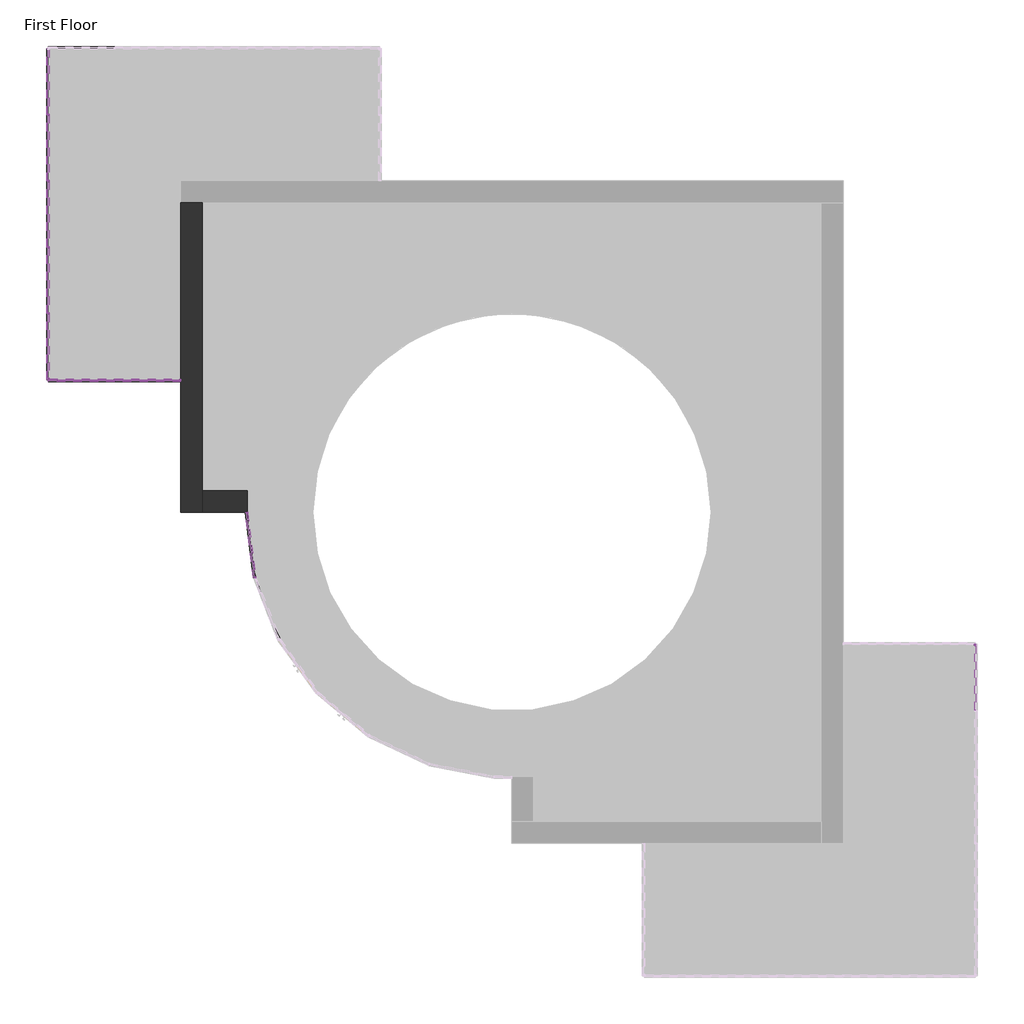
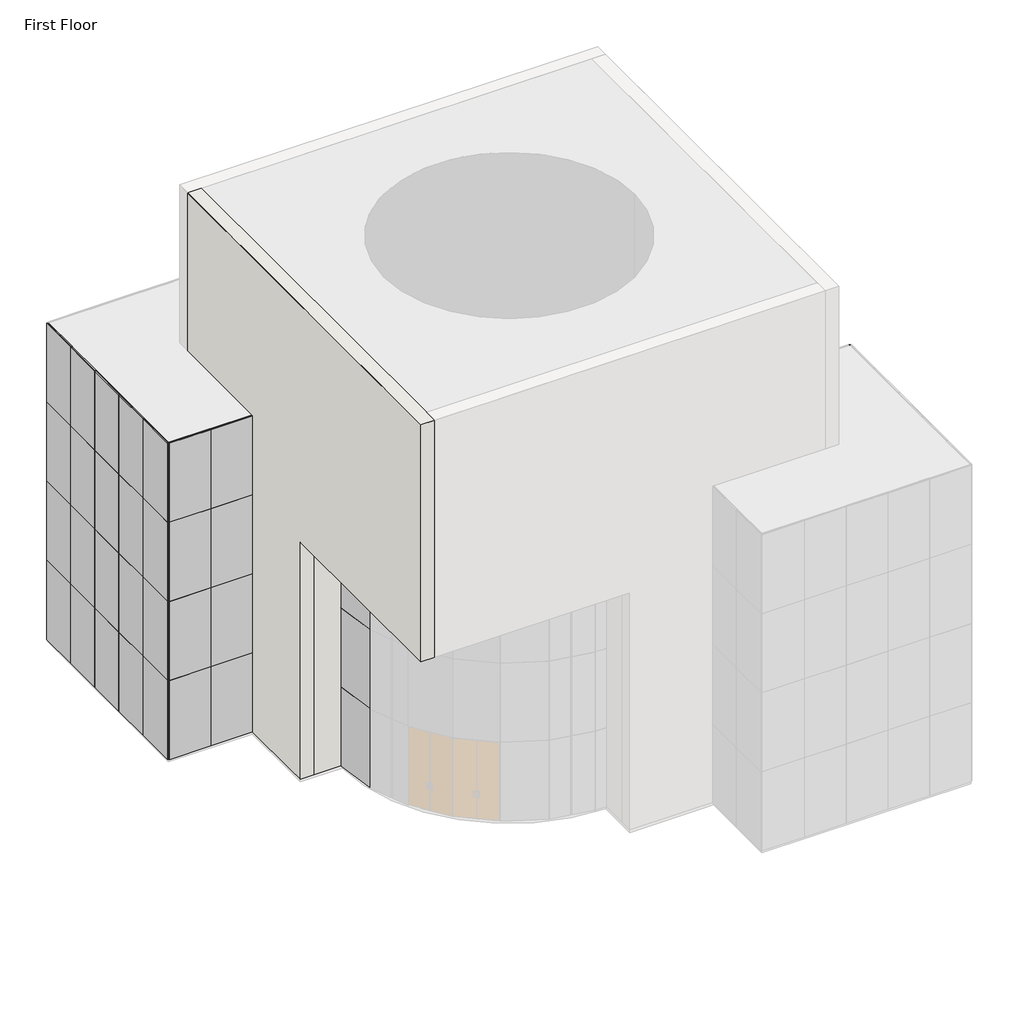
# One storey, part 3 of 4: 89 members, 32 plates, 2 walls.
"""IFC4 building model written with IfcOpenShell, lengths in millimetres."""

from ifc_helpers import new_model, si_unit, origin, origin_with_axes, place, context, project, spatial, polyline, outline, extrude, faceted_brep, transform, mapped, element, save
from components import member_8003fc1d, member_cbdb9076, member_e23d1186, member_113f7001, member_5d503216, member_7e523723, member_74941792, member_5e617a80, member_9fd3d903, member_6604d1e0, system_panel_glazed_9c75bc08

model = new_model("IFC4")

# Units and contexts
model_context = context("Model", 3, world=origin())
ifc_project = project(units=[si_unit("LENGTHUNIT", "METRE", prefix="MILLI")], contexts=[model_context])

# Site, building, storey
site = spatial("IfcSite", under=ifc_project)
building = spatial("IfcBuilding", under=site)
storey = spatial("IfcBuildingStorey", under=building, Name="First Floor", Elevation=0.0)

# Members
placement = place(None, origin())
member_shape = member_8003fc1d(model_context)
element("IfcMember", 1, ObjectType="Rectangular Mullion : 1\" Square", at=placement, inside=storey, context=model_context, shape_type="MappedRepresentation", body=[
    mapped(member_shape, transform((-8300.45977, 2058.6208328, 0.0), x_axis=(0.0, 0.0, -1.0), y_axis=(-0.9921567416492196, -0.1250000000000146, 0.0), z_axis=(-0.1250000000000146, 0.9921567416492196, 0.0))),
])
member_2_shape = member_cbdb9076(model_context)
element("IfcMember", 2, ObjectType="Rectangular Mullion : 1\" Square", at=placement, inside=storey, context=model_context, shape_type="MappedRepresentation", body=[
    mapped(member_2_shape, transform((-8113.13477, 571.7747398, 0.0), x_axis=(0.24803918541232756, -0.9687499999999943, 0.0), y_axis=(-0.9687499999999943, -0.24803918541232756, 0.0), z_axis=(0.0, 0.0, -1.0))),
])
element("IfcMember", 3, ObjectType="Rectangular Mullion : 1\" Square", at=placement, inside=storey, context=model_context, shape_type="MappedRepresentation", body=[
    mapped(member_2_shape, transform((-12875.63477, 11227.821614, 0.0), x_axis=(0.0, -1.0, 0.0), y_axis=(-1.0, 0.0, 0.0), z_axis=(0.0, 0.0, -1.0))),
])
element("IfcMember", 4, ObjectType="Rectangular Mullion : 1\" Square", at=placement, inside=storey, context=model_context, shape_type="MappedRepresentation", body=[
    mapped(member_2_shape, transform((-12875.63477, 9703.821614, 0.0), x_axis=(0.0, -1.0, 0.0), y_axis=(-1.0, 0.0, 0.0), z_axis=(0.0, 0.0, -1.0))),
])
element("IfcMember", 5, ObjectType="Rectangular Mullion : 1\" Square", at=placement, inside=storey, context=model_context, shape_type="MappedRepresentation", body=[
    mapped(member_2_shape, transform((-12875.63477, 8179.821614, 0.0), x_axis=(0.0, -1.0, 0.0), y_axis=(-1.0, 0.0, 0.0), z_axis=(0.0, 0.0, -1.0))),
])
element("IfcMember", 6, ObjectType="Rectangular Mullion : 1\" Square", at=placement, inside=storey, context=model_context, shape_type="MappedRepresentation", body=[
    mapped(member_2_shape, transform((-12875.63477, 6655.821614, 0.0), x_axis=(0.0, -1.0, 0.0), y_axis=(-1.0, 0.0, 0.0), z_axis=(0.0, 0.0, -1.0))),
])
element("IfcMember", 7, ObjectType="Rectangular Mullion : 1\" Square", at=placement, inside=storey, context=model_context, shape_type="MappedRepresentation", body=[
    mapped(member_2_shape, transform((-11351.63477, 5131.821614, 0.0), x_axis=(1.0, 0.0, 0.0), y_axis=(0.0, -1.0, 0.0), z_axis=(0.0, 0.0, -1.0))),
])
member_3_shape = member_e23d1186(model_context)
element("IfcMember", 8, ObjectType="Rectangular Mullion : 1\" Square", at=placement, inside=storey, context=model_context, shape_type="MappedRepresentation", body=[
    mapped(member_3_shape, transform((-8114.72227, 584.3751304, 3048.0), x_axis=(0.0, 0.0, 1.0), y_axis=(-0.9921567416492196, -0.12500000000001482, 0.0), z_axis=(0.12500000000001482, -0.9921567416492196, 0.0))),
])
element("IfcMember", 9, ObjectType="Rectangular Mullion : 1\" Square", at=placement, inside=storey, context=model_context, shape_type="MappedRepresentation", body=[
    mapped(member_3_shape, transform((-8114.72227, 584.3751304, 6096.0), x_axis=(0.0, 0.0, 1.0), y_axis=(-0.9921567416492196, -0.12500000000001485, 0.0), z_axis=(0.12500000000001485, -0.9921567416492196, 0.0))),
])
member_4_shape = member_113f7001(model_context)
element("IfcMember", 10, ObjectType="Rectangular Mullion : 1\" Square", at=placement, inside=storey, context=model_context, shape_type="MappedRepresentation", body=[
    mapped(member_4_shape, transform((-8108.4714888, 559.9618735, 0.0), x_axis=(0.0, 0.0, -1.0), y_axis=(-0.9301469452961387, -0.3671875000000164, 0.0), z_axis=(-0.3671875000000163, 0.9301469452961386, 0.0))),
])
member_5_shape = member_5d503216(model_context)
element("IfcMember", 11, ObjectType="Rectangular Mullion : 1\" Square", at=placement, inside=storey, context=model_context, shape_type="MappedRepresentation", body=[
    mapped(member_5_shape, transform((-8114.72227, 584.3751304, 9144.0), x_axis=(0.0, 0.0, 1.0), y_axis=(-0.9921567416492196, -0.12500000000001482, 0.0), z_axis=(0.12500000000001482, -0.9921567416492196, 0.0))),
])
element("IfcMember", 12, ObjectType="Rectangular Mullion : 1\" Square", at=placement, inside=storey, context=model_context, shape_type="MappedRepresentation", body=[
    mapped(member_2_shape, transform((-8113.13477, 571.7747398, 3048.0), x_axis=(0.2480391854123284, -0.9687499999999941, 0.0), y_axis=(-0.9687499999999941, -0.2480391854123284, 0.0), z_axis=(0.0, 0.0, -1.0))),
])
element("IfcMember", 13, ObjectType="Rectangular Mullion : 1\" Square", at=placement, inside=storey, context=model_context, shape_type="MappedRepresentation", body=[
    mapped(member_2_shape, transform((-12875.63477, 11227.821614, 3048.0), x_axis=(0.0, -1.0, 0.0), y_axis=(-1.0, 0.0, 0.0), z_axis=(0.0, 0.0, -1.0))),
])
element("IfcMember", 14, ObjectType="Rectangular Mullion : 1\" Square", at=placement, inside=storey, context=model_context, shape_type="MappedRepresentation", body=[
    mapped(member_2_shape, transform((-12875.63477, 11227.821614, 6096.0), x_axis=(0.0, -1.0, 0.0), y_axis=(-1.0, 0.0, 0.0), z_axis=(0.0, 0.0, -1.0))),
])
element("IfcMember", 15, ObjectType="Rectangular Mullion : 1\" Square", at=placement, inside=storey, context=model_context, shape_type="MappedRepresentation", body=[
    mapped(member_2_shape, transform((-12875.63477, 9703.821614, 3048.0), x_axis=(0.0, -1.0, 0.0), y_axis=(-1.0, 0.0, 0.0), z_axis=(0.0, 0.0, -1.0))),
])
element("IfcMember", 16, ObjectType="Rectangular Mullion : 1\" Square", at=placement, inside=storey, context=model_context, shape_type="MappedRepresentation", body=[
    mapped(member_2_shape, transform((-12875.63477, 9703.821614, 6096.0), x_axis=(0.0, -1.0, 0.0), y_axis=(-1.0, 0.0, 0.0), z_axis=(0.0, 0.0, -1.0))),
])
element("IfcMember", 17, ObjectType="Rectangular Mullion : 1\" Square", at=placement, inside=storey, context=model_context, shape_type="MappedRepresentation", body=[
    mapped(member_2_shape, transform((-12875.63477, 8179.821614, 3048.0), x_axis=(0.0, -1.0, 0.0), y_axis=(-1.0, 0.0, 0.0), z_axis=(0.0, 0.0, -1.0))),
])
element("IfcMember", 18, ObjectType="Rectangular Mullion : 1\" Square", at=placement, inside=storey, context=model_context, shape_type="MappedRepresentation", body=[
    mapped(member_2_shape, transform((-12875.63477, 8179.821614, 6096.0), x_axis=(0.0, -1.0, 0.0), y_axis=(-1.0, 0.0, 0.0), z_axis=(0.0, 0.0, -1.0))),
])
element("IfcMember", 19, ObjectType="Rectangular Mullion : 1\" Square", at=placement, inside=storey, context=model_context, shape_type="MappedRepresentation", body=[
    mapped(member_2_shape, transform((-12875.63477, 6655.821614, 3048.0), x_axis=(0.0, -1.0, 0.0), y_axis=(-1.0, 0.0, 0.0), z_axis=(0.0, 0.0, -1.0))),
])
element("IfcMember", 20, ObjectType="Rectangular Mullion : 1\" Square", at=placement, inside=storey, context=model_context, shape_type="MappedRepresentation", body=[
    mapped(member_2_shape, transform((-12875.63477, 6655.821614, 6096.0), x_axis=(0.0, -1.0, 0.0), y_axis=(-1.0, 0.0, 0.0), z_axis=(0.0, 0.0, -1.0))),
])
element("IfcMember", 21, ObjectType="Rectangular Mullion : 1\" Square", at=placement, inside=storey, context=model_context, shape_type="MappedRepresentation", body=[
    mapped(member_2_shape, transform((-11351.63477, 5131.821614, 3048.0), x_axis=(1.0, 0.0, 0.0), y_axis=(0.0, -1.0, 0.0), z_axis=(0.0, 0.0, -1.0))),
])
element("IfcMember", 22, ObjectType="Rectangular Mullion : 1\" Square", at=placement, inside=storey, context=model_context, shape_type="MappedRepresentation", body=[
    mapped(member_2_shape, transform((-11351.63477, 5131.821614, 6096.0), x_axis=(1.0, 0.0, 0.0), y_axis=(0.0, -1.0, 0.0), z_axis=(0.0, 0.0, -1.0))),
])
element("IfcMember", 23, ObjectType="Rectangular Mullion : 1\" Square", at=placement, inside=storey, context=model_context, shape_type="MappedRepresentation", body=[
    mapped(member_2_shape, transform((-8113.13477, 571.7747398, 6096.0), x_axis=(0.2480391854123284, -0.9687499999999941, 0.0), y_axis=(-0.9687499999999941, -0.2480391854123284, 0.0), z_axis=(0.0, 0.0, -1.0))),
])
element("IfcMember", 24, ObjectType="Rectangular Mullion : 1\" Square", at=placement, inside=storey, context=model_context, shape_type="MappedRepresentation", body=[
    mapped(member_2_shape, transform((-12875.63477, 11227.821614, 9144.0), x_axis=(0.0, -1.0, 0.0), y_axis=(-1.0, 0.0, 0.0), z_axis=(0.0, 0.0, -1.0))),
])
element("IfcMember", 25, ObjectType="Rectangular Mullion : 1\" Square", at=placement, inside=storey, context=model_context, shape_type="MappedRepresentation", body=[
    mapped(member_2_shape, transform((-12875.63477, 9703.821614, 9144.0), x_axis=(0.0, -1.0, 0.0), y_axis=(-1.0, 0.0, 0.0), z_axis=(0.0, 0.0, -1.0))),
])
element("IfcMember", 26, ObjectType="Rectangular Mullion : 1\" Square", at=placement, inside=storey, context=model_context, shape_type="MappedRepresentation", body=[
    mapped(member_2_shape, transform((-12875.63477, 8179.821614, 9144.0), x_axis=(0.0, -1.0, 0.0), y_axis=(-1.0, 0.0, 0.0), z_axis=(0.0, 0.0, -1.0))),
])
element("IfcMember", 27, ObjectType="Rectangular Mullion : 1\" Square", at=placement, inside=storey, context=model_context, shape_type="MappedRepresentation", body=[
    mapped(member_2_shape, transform((-12875.63477, 6655.821614, 9144.0), x_axis=(0.0, -1.0, 0.0), y_axis=(-1.0, 0.0, 0.0), z_axis=(0.0, 0.0, -1.0))),
])
element("IfcMember", 28, ObjectType="Rectangular Mullion : 1\" Square", at=placement, inside=storey, context=model_context, shape_type="MappedRepresentation", body=[
    mapped(member_2_shape, transform((-11351.63477, 5131.821614, 9144.0), x_axis=(1.0, 0.0, 0.0), y_axis=(0.0, -1.0, 0.0), z_axis=(0.0, 0.0, -1.0))),
])
member_6_shape = member_7e523723(model_context)
element("IfcMember", 29, ObjectType="Rectangular Mullion : 1\" Square", at=placement, inside=storey, context=model_context, shape_type="MappedRepresentation", body=[
    mapped(member_6_shape, transform((8460.36523, -964.178386, 0.0), x_axis=(0.0, 1.0, 0.0), y_axis=(1.0, 0.0, 0.0), z_axis=(0.0, 0.0, -1.0))),
])
element("IfcMember", 30, ObjectType="Rectangular Mullion : 1\" Square", at=placement, inside=storey, context=model_context, shape_type="MappedRepresentation", body=[
    mapped(member_6_shape, transform((-12875.63477, 5131.821614, 0.0), x_axis=(0.0, -1.0, 0.0), y_axis=(-1.0, 0.0, 0.0), z_axis=(0.0, 0.0, -1.0))),
])
element("IfcMember", 31, ObjectType="Rectangular Mullion : 1\" Square", at=placement, inside=storey, context=model_context, shape_type="MappedRepresentation", body=[
    mapped(member_6_shape, transform((-9827.63477, 5131.821614, 0.0), x_axis=(1.0, 0.0, 0.0), y_axis=(0.0, -1.0, 0.0), z_axis=(0.0, 0.0, -1.0))),
])
element("IfcMember", 32, ObjectType="Rectangular Mullion : 1\" Square", at=placement, inside=storey, context=model_context, shape_type="MappedRepresentation", body=[
    mapped(member_6_shape, transform((-8303.63477, 2083.821614, 9144.0), x_axis=(-0.1250000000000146, 0.9921567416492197, 0.0), y_axis=(-0.9921567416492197, -0.1250000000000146, 0.0), z_axis=(0.0, 0.0, 1.0))),
])
element("IfcMember", 33, ObjectType="Rectangular Mullion : 1\" Square", at=placement, inside=storey, context=model_context, shape_type="MappedRepresentation", body=[
    mapped(member_6_shape, transform((-12875.63477, 5131.821614, 12192.0), x_axis=(-1.0, 0.0, 0.0), y_axis=(0.0, -1.0, 0.0), z_axis=(0.0, 0.0, 1.0))),
])
element("IfcMember", 34, ObjectType="Rectangular Mullion : 1\" Square", at=placement, inside=storey, context=model_context, shape_type="MappedRepresentation", body=[
    mapped(member_6_shape, transform((8460.36523, -964.178386, 12192.0), x_axis=(1.0, 0.0, 0.0), y_axis=(0.0, 1.0, 0.0), z_axis=(0.0, 0.0, 1.0))),
])
element("IfcMember", 35, ObjectType="Rectangular Mullion : 1\" Square", at=placement, inside=storey, context=model_context, shape_type="MappedRepresentation", body=[
    mapped(member_6_shape, transform((-8303.63477, 2083.821614, 3048.0), x_axis=(-0.1250000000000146, 0.9921567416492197, 0.0), y_axis=(-0.9921567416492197, -0.1250000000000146, 0.0), z_axis=(0.0, 0.0, 1.0))),
])
element("IfcMember", 36, ObjectType="Rectangular Mullion : 1\" Square", at=placement, inside=storey, context=model_context, shape_type="MappedRepresentation", body=[
    mapped(member_6_shape, transform((-12875.63477, 5131.821614, 3048.0), x_axis=(-1.0, 0.0, 0.0), y_axis=(0.0, -1.0, 0.0), z_axis=(0.0, 0.0, 1.0))),
])
element("IfcMember", 37, ObjectType="Rectangular Mullion : 1\" Square", at=placement, inside=storey, context=model_context, shape_type="MappedRepresentation", body=[
    mapped(member_6_shape, transform((8460.36523, -964.178386, 3048.0), x_axis=(1.0, 0.0, 0.0), y_axis=(0.0, 1.0, 0.0), z_axis=(0.0, 0.0, 1.0))),
])
element("IfcMember", 38, ObjectType="Rectangular Mullion : 1\" Square", at=placement, inside=storey, context=model_context, shape_type="MappedRepresentation", body=[
    mapped(member_6_shape, transform((-8303.63477, 2083.821614, 6096.0), x_axis=(-0.12500000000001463, 0.9921567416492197, 0.0), y_axis=(-0.9921567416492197, -0.12500000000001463, 0.0), z_axis=(0.0, 0.0, 1.0))),
])
element("IfcMember", 39, ObjectType="Rectangular Mullion : 1\" Square", at=placement, inside=storey, context=model_context, shape_type="MappedRepresentation", body=[
    mapped(member_6_shape, transform((-12875.63477, 5131.821614, 6096.0), x_axis=(-1.0, 0.0, 0.0), y_axis=(0.0, -1.0, 0.0), z_axis=(0.0, 0.0, 1.0))),
])
element("IfcMember", 40, ObjectType="Rectangular Mullion : 1\" Square", at=placement, inside=storey, context=model_context, shape_type="MappedRepresentation", body=[
    mapped(member_6_shape, transform((-12875.63477, 5131.821614, 9144.0), x_axis=(-1.0, 0.0, 0.0), y_axis=(0.0, -1.0, 0.0), z_axis=(0.0, 0.0, 1.0))),
])
element("IfcMember", 41, ObjectType="Rectangular Mullion : 1\" Square", at=placement, inside=storey, context=model_context, shape_type="MappedRepresentation", body=[
    mapped(member_6_shape, transform((8460.36523, -964.178386, 6096.0), x_axis=(1.0, 0.0, 0.0), y_axis=(0.0, 1.0, 0.0), z_axis=(0.0, 0.0, 1.0))),
])
element("IfcMember", 42, ObjectType="Rectangular Mullion : 1\" Square", at=placement, inside=storey, context=model_context, shape_type="MappedRepresentation", body=[
    mapped(member_6_shape, transform((8460.36523, -964.178386, 9144.0), x_axis=(1.0, 0.0, 0.0), y_axis=(0.0, 1.0, 0.0), z_axis=(0.0, 0.0, 1.0))),
])
element("IfcMember", 43, ObjectType="Rectangular Mullion : 1\" Square", at=placement, inside=storey, context=model_context, shape_type="MappedRepresentation", body=[
    mapped(member_6_shape, transform((8460.36523, -964.178386, 3048.0), x_axis=(0.0, 1.0, 0.0), y_axis=(1.0, 0.0, 0.0), z_axis=(0.0, 0.0, -1.0))),
])
element("IfcMember", 44, ObjectType="Rectangular Mullion : 1\" Square", at=placement, inside=storey, context=model_context, shape_type="MappedRepresentation", body=[
    mapped(member_6_shape, transform((8460.36523, -964.178386, 6096.0), x_axis=(0.0, 1.0, 0.0), y_axis=(1.0, 0.0, 0.0), z_axis=(0.0, 0.0, -1.0))),
])
element("IfcMember", 45, ObjectType="Rectangular Mullion : 1\" Square", at=placement, inside=storey, context=model_context, shape_type="MappedRepresentation", body=[
    mapped(member_6_shape, transform((-12875.63477, 5131.821614, 3048.0), x_axis=(0.0, -1.0, 0.0), y_axis=(-1.0, 0.0, 0.0), z_axis=(0.0, 0.0, -1.0))),
])
element("IfcMember", 46, ObjectType="Rectangular Mullion : 1\" Square", at=placement, inside=storey, context=model_context, shape_type="MappedRepresentation", body=[
    mapped(member_6_shape, transform((-12875.63477, 5131.821614, 6096.0), x_axis=(0.0, -1.0, 0.0), y_axis=(-1.0, 0.0, 0.0), z_axis=(0.0, 0.0, -1.0))),
])
element("IfcMember", 47, ObjectType="Rectangular Mullion : 1\" Square", at=placement, inside=storey, context=model_context, shape_type="MappedRepresentation", body=[
    mapped(member_6_shape, transform((-9827.63477, 5131.821614, 3048.0), x_axis=(1.0, 0.0, 0.0), y_axis=(0.0, -1.0, 0.0), z_axis=(0.0, 0.0, -1.0))),
])
element("IfcMember", 48, ObjectType="Rectangular Mullion : 1\" Square", at=placement, inside=storey, context=model_context, shape_type="MappedRepresentation", body=[
    mapped(member_6_shape, transform((-9827.63477, 5131.821614, 6096.0), x_axis=(1.0, 0.0, 0.0), y_axis=(0.0, -1.0, 0.0), z_axis=(0.0, 0.0, -1.0))),
])
element("IfcMember", 49, ObjectType="Rectangular Mullion : 1\" Square", at=placement, inside=storey, context=model_context, shape_type="MappedRepresentation", body=[
    mapped(member_6_shape, transform((8460.36523, -964.178386, 9144.0), x_axis=(0.0, 1.0, 0.0), y_axis=(1.0, 0.0, 0.0), z_axis=(0.0, 0.0, -1.0))),
])
element("IfcMember", 50, ObjectType="Rectangular Mullion : 1\" Square", at=placement, inside=storey, context=model_context, shape_type="MappedRepresentation", body=[
    mapped(member_6_shape, transform((-12875.63477, 5131.821614, 9144.0), x_axis=(0.0, -1.0, 0.0), y_axis=(-1.0, 0.0, 0.0), z_axis=(0.0, 0.0, -1.0))),
])
element("IfcMember", 51, ObjectType="Rectangular Mullion : 1\" Square", at=placement, inside=storey, context=model_context, shape_type="MappedRepresentation", body=[
    mapped(member_6_shape, transform((-9827.63477, 5131.821614, 9144.0), x_axis=(1.0, 0.0, 0.0), y_axis=(0.0, -1.0, 0.0), z_axis=(0.0, 0.0, -1.0))),
])
member_7_shape = member_74941792(model_context)
element("IfcMember", 52, ObjectType="Rectangular Mullion : 1\" Square", at=placement, inside=storey, context=model_context, shape_type="MappedRepresentation", body=[
    mapped(member_7_shape, transform((-12875.63477, 5157.221614, 12192.0), x_axis=(0.0, 0.0, 1.0), y_axis=(-1.0, 0.0, 0.0), z_axis=(0.0, -1.0, 0.0))),
])
element("IfcMember", 53, ObjectType="Rectangular Mullion : 1\" Square", at=placement, inside=storey, context=model_context, shape_type="MappedRepresentation", body=[
    mapped(member_7_shape, transform((-12875.63477, 11240.521614, 12192.0), x_axis=(0.0, 0.0, 1.0), y_axis=(-1.0, 0.0, 0.0), z_axis=(0.0, -1.0, 0.0))),
])
element("IfcMember", 54, ObjectType="Rectangular Mullion : 1\" Square", at=placement, inside=storey, context=model_context, shape_type="MappedRepresentation", body=[
    mapped(member_7_shape, transform((-9853.03477, 5131.821614, 12192.0), x_axis=(0.0, 0.0, 1.0), y_axis=(0.0, -1.0, 0.0), z_axis=(1.0, 0.0, 0.0))),
])
element("IfcMember", 55, ObjectType="Rectangular Mullion : 1\" Square", at=placement, inside=storey, context=model_context, shape_type="MappedRepresentation", body=[
    mapped(member_7_shape, transform((-11364.33477, 5131.821614, 12192.0), x_axis=(0.0, 0.0, 1.0), y_axis=(0.0, -1.0, 0.0), z_axis=(1.0, 0.0, 0.0))),
])
element("IfcMember", 56, ObjectType="Rectangular Mullion : 1\" Square", at=placement, inside=storey, context=model_context, shape_type="MappedRepresentation", body=[
    mapped(member_7_shape, transform((-12875.63477, 6643.121614, 0.0), x_axis=(0.0, 0.0, -1.0), y_axis=(-1.0, 0.0, 0.0), z_axis=(0.0, 1.0, 0.0))),
])
element("IfcMember", 57, ObjectType="Rectangular Mullion : 1\" Square", at=placement, inside=storey, context=model_context, shape_type="MappedRepresentation", body=[
    mapped(member_7_shape, transform((-12850.23477, 5131.821614, 0.0), x_axis=(0.0, 0.0, -1.0), y_axis=(0.0, -1.0, 0.0), z_axis=(-1.0, 0.0, 0.0))),
])
element("IfcMember", 58, ObjectType="Rectangular Mullion : 1\" Square", at=placement, inside=storey, context=model_context, shape_type="MappedRepresentation", body=[
    mapped(member_7_shape, transform((-11338.93477, 5131.821614, 0.0), x_axis=(0.0, 0.0, -1.0), y_axis=(0.0, -1.0, 0.0), z_axis=(-1.0, 0.0, 0.0))),
])
element("IfcMember", 59, ObjectType="Rectangular Mullion : 1\" Square", at=placement, inside=storey, context=model_context, shape_type="MappedRepresentation", body=[
    mapped(member_7_shape, transform((8434.96523, -964.178386, 0.0), x_axis=(0.0, 0.0, -1.0), y_axis=(0.0, 1.0, 0.0), z_axis=(1.0, 0.0, 0.0))),
])
member_8_shape = member_5e617a80(model_context)
element("IfcMember", 60, ObjectType="Rectangular Mullion : 1\" Square", at=placement, inside=storey, context=model_context, shape_type="MappedRepresentation", body=[
    mapped(member_8_shape, transform((8460.36523, -989.578386, 3048.0), x_axis=(0.0, 0.0, 1.0), y_axis=(1.0, 0.0, 0.0), z_axis=(0.0, 1.0, 0.0))),
])
element("IfcMember", 61, ObjectType="Rectangular Mullion : 1\" Square", at=placement, inside=storey, context=model_context, shape_type="MappedRepresentation", body=[
    mapped(member_8_shape, transform((8460.36523, -989.578386, 6096.0), x_axis=(0.0, 0.0, 1.0), y_axis=(1.0, 0.0, 0.0), z_axis=(0.0, 1.0, 0.0))),
])
element("IfcMember", 62, ObjectType="Rectangular Mullion : 1\" Square", at=placement, inside=storey, context=model_context, shape_type="MappedRepresentation", body=[
    mapped(member_8_shape, transform((8460.36523, -989.578386, 9144.0), x_axis=(0.0, 0.0, 1.0), y_axis=(1.0, 0.0, 0.0), z_axis=(0.0, 1.0, 0.0))),
])
element("IfcMember", 63, ObjectType="Rectangular Mullion : 1\" Square", at=placement, inside=storey, context=model_context, shape_type="MappedRepresentation", body=[
    mapped(member_8_shape, transform((-12875.63477, 11240.521614, 3048.0), x_axis=(0.0, 0.0, 1.0), y_axis=(-1.0, 0.0, 0.0), z_axis=(0.0, -1.0, 0.0))),
])
element("IfcMember", 64, ObjectType="Rectangular Mullion : 1\" Square", at=placement, inside=storey, context=model_context, shape_type="MappedRepresentation", body=[
    mapped(member_8_shape, transform((-12875.63477, 5157.221614, 3048.0), x_axis=(0.0, 0.0, 1.0), y_axis=(-1.0, 0.0, 0.0), z_axis=(0.0, -1.0, 0.0))),
])
element("IfcMember", 65, ObjectType="Rectangular Mullion : 1\" Square", at=placement, inside=storey, context=model_context, shape_type="MappedRepresentation", body=[
    mapped(member_8_shape, transform((-12875.63477, 11240.521614, 6096.0), x_axis=(0.0, 0.0, 1.0), y_axis=(-1.0, 0.0, 0.0), z_axis=(0.0, -1.0, 0.0))),
])
element("IfcMember", 66, ObjectType="Rectangular Mullion : 1\" Square", at=placement, inside=storey, context=model_context, shape_type="MappedRepresentation", body=[
    mapped(member_8_shape, transform((-12875.63477, 5157.221614, 6096.0), x_axis=(0.0, 0.0, 1.0), y_axis=(-1.0, 0.0, 0.0), z_axis=(0.0, -1.0, 0.0))),
])
element("IfcMember", 67, ObjectType="Rectangular Mullion : 1\" Square", at=placement, inside=storey, context=model_context, shape_type="MappedRepresentation", body=[
    mapped(member_8_shape, transform((-12875.63477, 11240.521614, 9144.0), x_axis=(0.0, 0.0, 1.0), y_axis=(-1.0, 0.0, 0.0), z_axis=(0.0, -1.0, 0.0))),
])
element("IfcMember", 68, ObjectType="Rectangular Mullion : 1\" Square", at=placement, inside=storey, context=model_context, shape_type="MappedRepresentation", body=[
    mapped(member_8_shape, transform((-12875.63477, 5157.221614, 9144.0), x_axis=(0.0, 0.0, 1.0), y_axis=(-1.0, 0.0, 0.0), z_axis=(0.0, -1.0, 0.0))),
])
element("IfcMember", 69, ObjectType="Rectangular Mullion : 1\" Square", at=placement, inside=storey, context=model_context, shape_type="MappedRepresentation", body=[
    mapped(member_8_shape, transform((-11364.33477, 5131.821614, 3048.0), x_axis=(0.0, 0.0, 1.0), y_axis=(0.0, -1.0, 0.0), z_axis=(1.0, 0.0, 0.0))),
])
element("IfcMember", 70, ObjectType="Rectangular Mullion : 1\" Square", at=placement, inside=storey, context=model_context, shape_type="MappedRepresentation", body=[
    mapped(member_8_shape, transform((-9853.03477, 5131.821614, 3048.0), x_axis=(0.0, 0.0, 1.0), y_axis=(0.0, -1.0, 0.0), z_axis=(1.0, 0.0, 0.0))),
])
element("IfcMember", 71, ObjectType="Rectangular Mullion : 1\" Square", at=placement, inside=storey, context=model_context, shape_type="MappedRepresentation", body=[
    mapped(member_8_shape, transform((-11364.33477, 5131.821614, 6096.0), x_axis=(0.0, 0.0, 1.0), y_axis=(0.0, -1.0, 0.0), z_axis=(1.0, 0.0, 0.0))),
])
element("IfcMember", 72, ObjectType="Rectangular Mullion : 1\" Square", at=placement, inside=storey, context=model_context, shape_type="MappedRepresentation", body=[
    mapped(member_8_shape, transform((-9853.03477, 5131.821614, 6096.0), x_axis=(0.0, 0.0, 1.0), y_axis=(0.0, -1.0, 0.0), z_axis=(1.0, 0.0, 0.0))),
])
element("IfcMember", 73, ObjectType="Rectangular Mullion : 1\" Square", at=placement, inside=storey, context=model_context, shape_type="MappedRepresentation", body=[
    mapped(member_8_shape, transform((-11364.33477, 5131.821614, 9144.0), x_axis=(0.0, 0.0, 1.0), y_axis=(0.0, -1.0, 0.0), z_axis=(1.0, 0.0, 0.0))),
])
element("IfcMember", 74, ObjectType="Rectangular Mullion : 1\" Square", at=placement, inside=storey, context=model_context, shape_type="MappedRepresentation", body=[
    mapped(member_8_shape, transform((-9853.03477, 5131.821614, 9144.0), x_axis=(0.0, 0.0, 1.0), y_axis=(0.0, -1.0, 0.0), z_axis=(1.0, 0.0, 0.0))),
])
member_9_shape = member_9fd3d903(model_context)
element("IfcMember", 75, ObjectType="Rectangular Mullion : 1\" Square", at=placement, inside=storey, context=model_context, shape_type="MappedRepresentation", body=[
    mapped(member_9_shape, transform((-12875.63477, 9716.521614, 3048.0), x_axis=(0.0, 0.0, 1.0), y_axis=(-1.0, 0.0, 0.0), z_axis=(0.0, -1.0, 0.0))),
])
element("IfcMember", 76, ObjectType="Rectangular Mullion : 1\" Square", at=placement, inside=storey, context=model_context, shape_type="MappedRepresentation", body=[
    mapped(member_9_shape, transform((-12875.63477, 8192.521614, 3048.0), x_axis=(0.0, 0.0, 1.0), y_axis=(-1.0, 0.0, 0.0), z_axis=(0.0, -1.0, 0.0))),
])
element("IfcMember", 77, ObjectType="Rectangular Mullion : 1\" Square", at=placement, inside=storey, context=model_context, shape_type="MappedRepresentation", body=[
    mapped(member_9_shape, transform((-12875.63477, 6668.521614, 3048.0), x_axis=(0.0, 0.0, 1.0), y_axis=(-1.0, 0.0, 0.0), z_axis=(0.0, -1.0, 0.0))),
])
element("IfcMember", 78, ObjectType="Rectangular Mullion : 1\" Square", at=placement, inside=storey, context=model_context, shape_type="MappedRepresentation", body=[
    mapped(member_9_shape, transform((-12875.63477, 9716.521614, 6096.0), x_axis=(0.0, 0.0, 1.0), y_axis=(-1.0, 0.0, 0.0), z_axis=(0.0, -1.0, 0.0))),
])
element("IfcMember", 79, ObjectType="Rectangular Mullion : 1\" Square", at=placement, inside=storey, context=model_context, shape_type="MappedRepresentation", body=[
    mapped(member_9_shape, transform((-12875.63477, 8192.521614, 6096.0), x_axis=(0.0, 0.0, 1.0), y_axis=(-1.0, 0.0, 0.0), z_axis=(0.0, -1.0, 0.0))),
])
element("IfcMember", 80, ObjectType="Rectangular Mullion : 1\" Square", at=placement, inside=storey, context=model_context, shape_type="MappedRepresentation", body=[
    mapped(member_9_shape, transform((-12875.63477, 6668.521614, 6096.0), x_axis=(0.0, 0.0, 1.0), y_axis=(-1.0, 0.0, 0.0), z_axis=(0.0, -1.0, 0.0))),
])
element("IfcMember", 81, ObjectType="Rectangular Mullion : 1\" Square", at=placement, inside=storey, context=model_context, shape_type="MappedRepresentation", body=[
    mapped(member_9_shape, transform((-12875.63477, 9716.521614, 9144.0), x_axis=(0.0, 0.0, 1.0), y_axis=(-1.0, 0.0, 0.0), z_axis=(0.0, -1.0, 0.0))),
])
element("IfcMember", 82, ObjectType="Rectangular Mullion : 1\" Square", at=placement, inside=storey, context=model_context, shape_type="MappedRepresentation", body=[
    mapped(member_9_shape, transform((-12875.63477, 8192.521614, 9144.0), x_axis=(0.0, 0.0, 1.0), y_axis=(-1.0, 0.0, 0.0), z_axis=(0.0, -1.0, 0.0))),
])
element("IfcMember", 83, ObjectType="Rectangular Mullion : 1\" Square", at=placement, inside=storey, context=model_context, shape_type="MappedRepresentation", body=[
    mapped(member_9_shape, transform((-12875.63477, 6668.521614, 9144.0), x_axis=(0.0, 0.0, 1.0), y_axis=(-1.0, 0.0, 0.0), z_axis=(0.0, -1.0, 0.0))),
])
member_10_shape = member_6604d1e0(model_context)
element("IfcMember", 84, ObjectType="Rectangular Mullion : 1\" Square", at=placement, inside=storey, context=model_context, shape_type="MappedRepresentation", body=[
    mapped(member_10_shape, transform((-12875.63477, 11215.121614, 0.0), x_axis=(0.0, 0.0, -1.0), y_axis=(-1.0, 0.0, 0.0), z_axis=(0.0, 1.0, 0.0))),
])
element("IfcMember", 85, ObjectType="Rectangular Mullion : 1\" Square", at=placement, inside=storey, context=model_context, shape_type="MappedRepresentation", body=[
    mapped(member_10_shape, transform((-12875.63477, 9691.121614, 0.0), x_axis=(0.0, 0.0, -1.0), y_axis=(-1.0, 0.0, 0.0), z_axis=(0.0, 1.0, 0.0))),
])
element("IfcMember", 86, ObjectType="Rectangular Mullion : 1\" Square", at=placement, inside=storey, context=model_context, shape_type="MappedRepresentation", body=[
    mapped(member_10_shape, transform((-12875.63477, 8167.121614, 0.0), x_axis=(0.0, 0.0, -1.0), y_axis=(-1.0, 0.0, 0.0), z_axis=(0.0, 1.0, 0.0))),
])
element("IfcMember", 87, ObjectType="Rectangular Mullion : 1\" Square", at=placement, inside=storey, context=model_context, shape_type="MappedRepresentation", body=[
    mapped(member_10_shape, transform((-12875.63477, 9716.521614, 12192.0), x_axis=(0.0, 0.0, 1.0), y_axis=(-1.0, 0.0, 0.0), z_axis=(0.0, -1.0, 0.0))),
])
element("IfcMember", 88, ObjectType="Rectangular Mullion : 1\" Square", at=placement, inside=storey, context=model_context, shape_type="MappedRepresentation", body=[
    mapped(member_10_shape, transform((-12875.63477, 8192.521614, 12192.0), x_axis=(0.0, 0.0, 1.0), y_axis=(-1.0, 0.0, 0.0), z_axis=(0.0, -1.0, 0.0))),
])
element("IfcMember", 89, ObjectType="Rectangular Mullion : 1\" Square", at=placement, inside=storey, context=model_context, shape_type="MappedRepresentation", body=[
    mapped(member_10_shape, transform((-12875.63477, 6668.521614, 12192.0), x_axis=(0.0, 0.0, 1.0), y_axis=(-1.0, 0.0, 0.0), z_axis=(0.0, -1.0, 0.0))),
])

# Plates
system_panel_glazed_shape = system_panel_glazed_9c75bc08(model_context)
element("IfcPlate", 90, ObjectType="System Panel : Glazed", at=placement, inside=storey, context=model_context, shape_type="MappedRepresentation", body=[
    mapped(system_panel_glazed_shape, transform((-12875.63477, 11989.821614, 0.0), x_axis=(0.0, -1.0, 0.0), y_axis=(1.0, 0.0, 0.0), z_axis=(0.0, 0.0, 1.0))),
])
element("IfcPlate", 91, ObjectType="System Panel : Glazed", at=placement, inside=storey, context=model_context, shape_type="MappedRepresentation", body=[
    mapped(system_panel_glazed_shape, transform((-12875.63477, 10465.821614, 0.0), x_axis=(0.0, -1.0, 0.0), y_axis=(1.0, 0.0, 0.0), z_axis=(0.0, 0.0, 1.0))),
])
element("IfcPlate", 92, ObjectType="System Panel : Glazed", at=placement, inside=storey, context=model_context, shape_type="MappedRepresentation", body=[
    mapped(system_panel_glazed_shape, transform((-12875.63477, 8941.821614, 0.0), x_axis=(0.0, -1.0, 0.0), y_axis=(1.0, 0.0, 0.0), z_axis=(0.0, 0.0, 1.0))),
])
element("IfcPlate", 93, ObjectType="System Panel : Glazed", at=placement, inside=storey, context=model_context, shape_type="MappedRepresentation", body=[
    mapped(system_panel_glazed_shape, transform((-12875.63477, 7417.821614, 0.0), x_axis=(0.0, -1.0, 0.0), y_axis=(1.0, 0.0, 0.0), z_axis=(0.0, 0.0, 1.0))),
])
element("IfcPlate", 94, ObjectType="System Panel : Glazed", at=placement, inside=storey, context=model_context, shape_type="MappedRepresentation", body=[
    mapped(system_panel_glazed_shape, transform((-12875.63477, 5893.821614, 0.0), x_axis=(0.0, -1.0, 0.0), y_axis=(1.0, 0.0, 0.0), z_axis=(0.0, 0.0, 1.0))),
])
element("IfcPlate", 95, ObjectType="System Panel : Glazed", at=placement, inside=storey, context=model_context, shape_type="MappedRepresentation", body=[
    mapped(system_panel_glazed_shape, transform((-12875.63477, 11989.821614, 3048.0), x_axis=(0.0, -1.0, 0.0), y_axis=(1.0, 0.0, 0.0), z_axis=(0.0, 0.0, 1.0))),
])
element("IfcPlate", 96, ObjectType="System Panel : Glazed", at=placement, inside=storey, context=model_context, shape_type="MappedRepresentation", body=[
    mapped(system_panel_glazed_shape, transform((-12875.63477, 10465.821614, 3048.0), x_axis=(0.0, -1.0, 0.0), y_axis=(1.0, 0.0, 0.0), z_axis=(0.0, 0.0, 1.0))),
])
element("IfcPlate", 97, ObjectType="System Panel : Glazed", at=placement, inside=storey, context=model_context, shape_type="MappedRepresentation", body=[
    mapped(system_panel_glazed_shape, transform((-12875.63477, 8941.821614, 3048.0), x_axis=(0.0, -1.0, 0.0), y_axis=(1.0, 0.0, 0.0), z_axis=(0.0, 0.0, 1.0))),
])
element("IfcPlate", 98, ObjectType="System Panel : Glazed", at=placement, inside=storey, context=model_context, shape_type="MappedRepresentation", body=[
    mapped(system_panel_glazed_shape, transform((-12875.63477, 7417.821614, 3048.0), x_axis=(0.0, -1.0, 0.0), y_axis=(1.0, 0.0, 0.0), z_axis=(0.0, 0.0, 1.0))),
])
element("IfcPlate", 99, ObjectType="System Panel : Glazed", at=placement, inside=storey, context=model_context, shape_type="MappedRepresentation", body=[
    mapped(system_panel_glazed_shape, transform((-12875.63477, 5893.821614, 3048.0), x_axis=(0.0, -1.0, 0.0), y_axis=(1.0, 0.0, 0.0), z_axis=(0.0, 0.0, 1.0))),
])
element("IfcPlate", 100, ObjectType="System Panel : Glazed", at=placement, inside=storey, context=model_context, shape_type="MappedRepresentation", body=[
    mapped(system_panel_glazed_shape, transform((-12875.63477, 11989.821614, 6096.0), x_axis=(0.0, -1.0, 0.0), y_axis=(1.0, 0.0, 0.0), z_axis=(0.0, 0.0, 1.0))),
])
element("IfcPlate", 101, ObjectType="System Panel : Glazed", at=placement, inside=storey, context=model_context, shape_type="MappedRepresentation", body=[
    mapped(system_panel_glazed_shape, transform((-12875.63477, 10465.821614, 6096.0), x_axis=(0.0, -1.0, 0.0), y_axis=(1.0, 0.0, 0.0), z_axis=(0.0, 0.0, 1.0))),
])
element("IfcPlate", 102, ObjectType="System Panel : Glazed", at=placement, inside=storey, context=model_context, shape_type="MappedRepresentation", body=[
    mapped(system_panel_glazed_shape, transform((-12875.63477, 8941.821614, 6096.0), x_axis=(0.0, -1.0, 0.0), y_axis=(1.0, 0.0, 0.0), z_axis=(0.0, 0.0, 1.0))),
])
element("IfcPlate", 103, ObjectType="System Panel : Glazed", at=placement, inside=storey, context=model_context, shape_type="MappedRepresentation", body=[
    mapped(system_panel_glazed_shape, transform((-12875.63477, 7417.821614, 6096.0), x_axis=(0.0, -1.0, 0.0), y_axis=(1.0, 0.0, 0.0), z_axis=(0.0, 0.0, 1.0))),
])
element("IfcPlate", 104, ObjectType="System Panel : Glazed", at=placement, inside=storey, context=model_context, shape_type="MappedRepresentation", body=[
    mapped(system_panel_glazed_shape, transform((-12875.63477, 5893.821614, 6096.0), x_axis=(0.0, -1.0, 0.0), y_axis=(1.0, 0.0, 0.0), z_axis=(0.0, 0.0, 1.0))),
])
element("IfcPlate", 105, ObjectType="System Panel : Glazed", at=placement, inside=storey, context=model_context, shape_type="MappedRepresentation", body=[
    mapped(system_panel_glazed_shape, transform((-12875.63477, 11989.821614, 9144.0), x_axis=(0.0, -1.0, 0.0), y_axis=(1.0, 0.0, 0.0), z_axis=(0.0, 0.0, 1.0))),
])
element("IfcPlate", 106, ObjectType="System Panel : Glazed", at=placement, inside=storey, context=model_context, shape_type="MappedRepresentation", body=[
    mapped(system_panel_glazed_shape, transform((-12875.63477, 10465.821614, 9144.0), x_axis=(0.0, -1.0, 0.0), y_axis=(1.0, 0.0, 0.0), z_axis=(0.0, 0.0, 1.0))),
])
element("IfcPlate", 107, ObjectType="System Panel : Glazed", at=placement, inside=storey, context=model_context, shape_type="MappedRepresentation", body=[
    mapped(system_panel_glazed_shape, transform((-12875.63477, 8941.821614, 9144.0), x_axis=(0.0, -1.0, 0.0), y_axis=(1.0, 0.0, 0.0), z_axis=(0.0, 0.0, 1.0))),
])
element("IfcPlate", 108, ObjectType="System Panel : Glazed", at=placement, inside=storey, context=model_context, shape_type="MappedRepresentation", body=[
    mapped(system_panel_glazed_shape, transform((-12875.63477, 7417.821614, 9144.0), x_axis=(0.0, -1.0, 0.0), y_axis=(1.0, 0.0, 0.0), z_axis=(0.0, 0.0, 1.0))),
])
element("IfcPlate", 109, ObjectType="System Panel : Glazed", at=placement, inside=storey, context=model_context, shape_type="MappedRepresentation", body=[
    mapped(system_panel_glazed_shape, transform((-12875.63477, 5893.821614, 9144.0), x_axis=(0.0, -1.0, 0.0), y_axis=(1.0, 0.0, 0.0), z_axis=(0.0, 0.0, 1.0))),
])
element("IfcPlate", 110, ObjectType="System Panel : Glazed", at=placement, inside=storey, context=model_context, shape_type="MappedRepresentation", body=[
    mapped(system_panel_glazed_shape, transform((-12113.63477, 5131.821614, 0.0), x_axis=(1.0, 0.0, 0.0), y_axis=(0.0, 1.0, 0.0), z_axis=(0.0, 0.0, 1.0))),
])
element("IfcPlate", 111, ObjectType="System Panel : Glazed", at=placement, inside=storey, context=model_context, shape_type="MappedRepresentation", body=[
    mapped(system_panel_glazed_shape, transform((-10589.63477, 5131.821614, 0.0), x_axis=(1.0, 0.0, 0.0), y_axis=(0.0, 1.0, 0.0), z_axis=(0.0, 0.0, 1.0))),
])
element("IfcPlate", 112, ObjectType="System Panel : Glazed", at=placement, inside=storey, context=model_context, shape_type="MappedRepresentation", body=[
    mapped(system_panel_glazed_shape, transform((-12113.63477, 5131.821614, 3048.0), x_axis=(1.0, 0.0, 0.0), y_axis=(0.0, 1.0, 0.0), z_axis=(0.0, 0.0, 1.0))),
])
element("IfcPlate", 113, ObjectType="System Panel : Glazed", at=placement, inside=storey, context=model_context, shape_type="MappedRepresentation", body=[
    mapped(system_panel_glazed_shape, transform((-10589.63477, 5131.821614, 3048.0), x_axis=(1.0, 0.0, 0.0), y_axis=(0.0, 1.0, 0.0), z_axis=(0.0, 0.0, 1.0))),
])
element("IfcPlate", 114, ObjectType="System Panel : Glazed", at=placement, inside=storey, context=model_context, shape_type="MappedRepresentation", body=[
    mapped(system_panel_glazed_shape, transform((-12113.63477, 5131.821614, 6096.0), x_axis=(1.0, 0.0, 0.0), y_axis=(0.0, 1.0, 0.0), z_axis=(0.0, 0.0, 1.0))),
])
element("IfcPlate", 115, ObjectType="System Panel : Glazed", at=placement, inside=storey, context=model_context, shape_type="MappedRepresentation", body=[
    mapped(system_panel_glazed_shape, transform((-10589.63477, 5131.821614, 6096.0), x_axis=(1.0, 0.0, 0.0), y_axis=(0.0, 1.0, 0.0), z_axis=(0.0, 0.0, 1.0))),
])
element("IfcPlate", 116, ObjectType="System Panel : Glazed", at=placement, inside=storey, context=model_context, shape_type="MappedRepresentation", body=[
    mapped(system_panel_glazed_shape, transform((-12113.63477, 5131.821614, 9144.0), x_axis=(1.0, 0.0, 0.0), y_axis=(0.0, 1.0, 0.0), z_axis=(0.0, 0.0, 1.0))),
])
element("IfcPlate", 117, ObjectType="System Panel : Glazed", at=placement, inside=storey, context=model_context, shape_type="MappedRepresentation", body=[
    mapped(system_panel_glazed_shape, transform((-10589.63477, 5131.821614, 9144.0), x_axis=(1.0, 0.0, 0.0), y_axis=(0.0, 1.0, 0.0), z_axis=(0.0, 0.0, 1.0))),
])
element("IfcPlate", 118, ObjectType="System Panel : Glazed", at=placement, inside=storey, context=model_context, shape_type="MappedRepresentation", body=[
    mapped(system_panel_glazed_shape, transform((-12113.63477, 12751.821614, 0.0), x_axis=(-1.0, 0.0, 0.0), y_axis=(0.0, -1.0, 0.0), z_axis=(0.0, 0.0, 1.0))),
])
element("IfcPlate", 119, ObjectType="System Panel : Glazed", at=placement, inside=storey, context=model_context, shape_type="MappedRepresentation", body=[
    mapped(system_panel_glazed_shape, transform((-8208.38477, 1327.7981769, 0.0), x_axis=(0.1250000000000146, -0.9921567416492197, 0.0), y_axis=(0.9921567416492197, 0.1250000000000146, 0.0), z_axis=(0.0, 0.0, 1.0))),
])
element("IfcPlate", 120, ObjectType="System Panel : Glazed", at=placement, inside=storey, context=model_context, shape_type="MappedRepresentation", body=[
    mapped(system_panel_glazed_shape, transform((-8208.38477, 1327.7981769, 3048.0), x_axis=(0.12500000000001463, -0.9921567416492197, 0.0), y_axis=(0.9921567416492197, 0.12500000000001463, 0.0), z_axis=(0.0, 0.0, 1.0))),
])
element("IfcPlate", 121, ObjectType="System Panel : Glazed", at=placement, inside=storey, context=model_context, shape_type="MappedRepresentation", body=[
    mapped(system_panel_glazed_shape, transform((-8208.38477, 1327.7981769, 6096.0), x_axis=(0.1250000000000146, -0.9921567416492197, 0.0), y_axis=(0.9921567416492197, 0.1250000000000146, 0.0), z_axis=(0.0, 0.0, 1.0))),
])

# Walls
element("IfcWall", 122, ObjectType="Exterior - Brick on CMU", at=placement, inside=storey, context=model_context, shape_type="Brep", body=[
    faceted_brep([(-9827.63477, 9208.521614, 0.0), (-9827.63477, 2083.821614, 0.0), (-9827.63477, 2083.821614, 9144.0), (-9827.63477, -5536.178386, 9144.0), (-9827.63477, -5536.178386, 18288.0), (-9827.63477, 9208.521614, 18288.0), (-9332.33477, 9208.521614, 0.0), (-9332.33477, 9208.521614, 18288.0), (-9332.33477, -5040.878386, 18288.0), (-9332.33477, -5536.178386, 18288.0), (-9332.33477, -5536.178386, 9144.0), (-9332.33477, -5040.878386, 9144.0), (-9332.33477, 2083.821614, 9144.0), (-9332.33477, 2083.821614, 0.0), (-9332.33477, 2579.121614, 0.0)], [[[0, 1, 2, 3, 4, 5]], [[6, 7, 8, 9, 10, 11, 12, 13, 14]], [[1, 0, 6, 14, 13]], [[3, 2, 12, 11, 10]], [[5, 4, 9, 8, 7]], [[0, 5, 7, 6]], [[4, 3, 10, 9]], [[2, 1, 13, 12]]]),
])
element("IfcWall", 123, ObjectType="Exterior - Brick on CMU", at=placement, inside=storey, context=model_context, shape_type="SweptSolid", body=[
    extrude(outline(polyline([(-9332.33477, 2579.121614), (-8303.63477, 2579.121614), (-8303.63477, 2083.821614), (-9332.33477, 2083.821614), (-9332.33477, 2579.121614)])), origin_with_axes(), (0.0, 0.0, 1.0), 9144.0),
])

save(model, "model.ifc")
